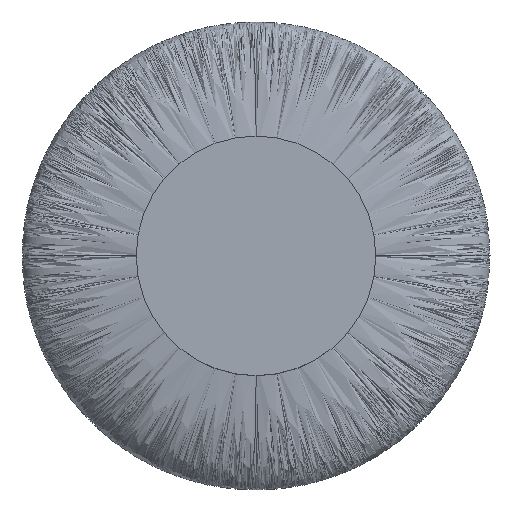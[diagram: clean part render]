
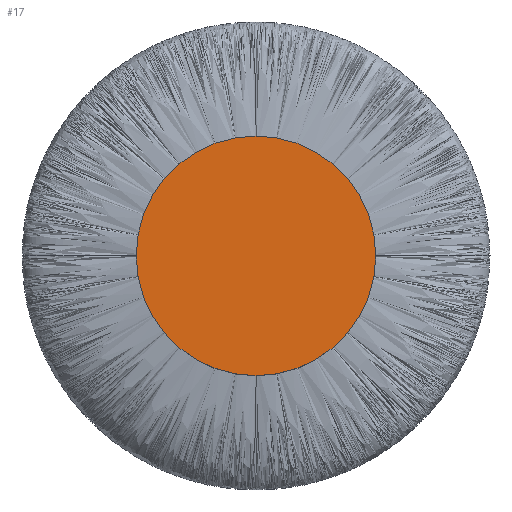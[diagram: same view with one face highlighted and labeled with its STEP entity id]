
A CAD part, top view. The second image highlights one B-rep face of the part: STEP entity #17.
In plain terms, the highlighted planar face has unit normal (0, 0, 1).
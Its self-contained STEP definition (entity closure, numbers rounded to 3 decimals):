
#17=ADVANCED_FACE('',(#23),#90,.T.);
#23=FACE_OUTER_BOUND('',#30,.T.);
#30=EDGE_LOOP('',(#42,#43));
#42=ORIENTED_EDGE('',*,*,#56,.T.);
#43=ORIENTED_EDGE('',*,*,#61,.T.);
#56=EDGE_CURVE('',#81,#85,#69,.T.);
#61=EDGE_CURVE('',#85,#81,#72,.T.);
#69=TRIMMED_CURVE($,#75,(#740),(#741),.T.,.CARTESIAN.);
#72=TRIMMED_CURVE($,#78,(#792),(#793),.T.,.CARTESIAN.);
#75=CIRCLE('',#186,64.);
#78=CIRCLE('',#189,64.);
#81=VERTEX_POINT('',#728);
#85=VERTEX_POINT('',#732);
#90=PLANE('',#183);
#183=AXIS2_PLACEMENT_3D('',#215,#196,$);
#186=AXIS2_PLACEMENT_3D($,#739,#200,#201);
#189=AXIS2_PLACEMENT_3D($,#791,#206,#207);
#196=DIRECTION('',(0.,0.,1.));
#200=DIRECTION('',(0.,0.,1.));
#201=DIRECTION('',(1.,0.,0.));
#206=DIRECTION('',(0.,0.,1.));
#207=DIRECTION('',(-1.,0.,0.));
#215=CARTESIAN_POINT('',(80.,80.,0.));
#728=CARTESIAN_POINT('',(64.,0.,0.));
#732=CARTESIAN_POINT('',(-64.,0.,0.));
#739=CARTESIAN_POINT('',(0.,0.,0.));
#740=CARTESIAN_POINT('',(64.,0.,0.));
#741=CARTESIAN_POINT('',(-64.,0.,0.));
#791=CARTESIAN_POINT('',(0.,0.,0.));
#792=CARTESIAN_POINT('',(-64.,0.,0.));
#793=CARTESIAN_POINT('',(64.,0.,0.));
